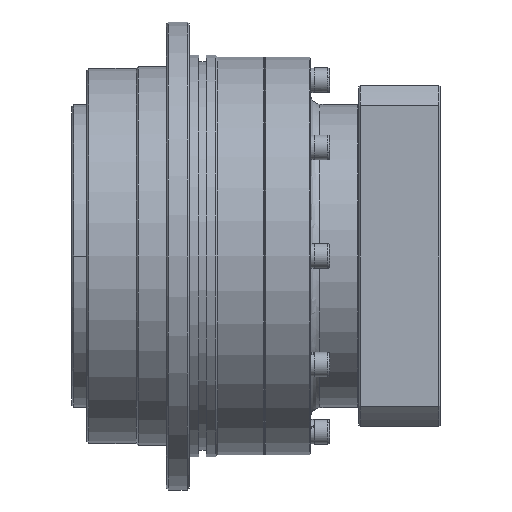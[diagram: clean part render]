
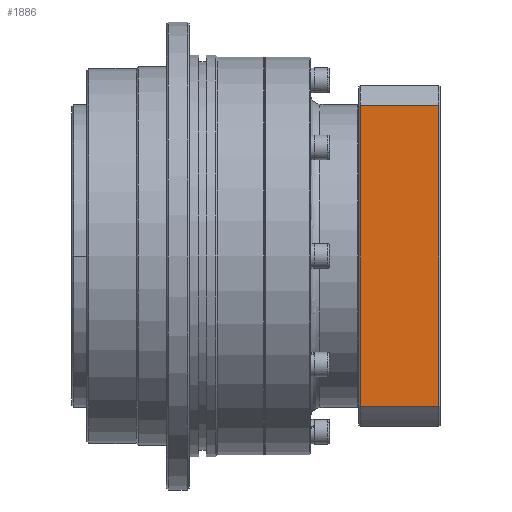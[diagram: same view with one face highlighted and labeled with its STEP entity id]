
A CAD part, front view. The second image highlights one B-rep face of the part: STEP entity #1886.
In plain terms, the highlighted planar face has unit normal (0, -1, 0).
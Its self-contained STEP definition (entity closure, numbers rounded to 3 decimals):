
#173 = FACE_OUTER_BOUND ( 'NONE', #5894, .T. ) ;
#1076 = VERTEX_POINT ( 'NONE', #15308 ) ;
#1662 = EDGE_CURVE ( 'NONE', #7879, #8043, #6459, .T. ) ;
#1886 = ADVANCED_FACE ( 'NONE', ( #173 ), #7020, .F. ) ;
#3167 = VECTOR ( 'NONE', #9845, 1000. ) ;
#4753 = VECTOR ( 'NONE', #12843, 1000. ) ;
#4812 = VERTEX_POINT ( 'NONE', #32263 ) ;
#4872 = ORIENTED_EDGE ( 'NONE', *, *, #32021, .T. ) ;
#5844 = CARTESIAN_POINT ( 'NONE',  ( 90.186, -112.294, 79.373 ) ) ;
#5894 = EDGE_LOOP ( 'NONE', ( #32314, #34624, #4872, #14950 ) ) ;
#6459 = LINE ( 'NONE', #20607, #4753 ) ;
#6790 = DIRECTION ( 'NONE',  ( 0., 0., 1. ) ) ;
#6961 = LINE ( 'NONE', #23038, #3167 ) ;
#7020 = PLANE ( 'NONE',  #26735 ) ;
#7879 = VERTEX_POINT ( 'NONE', #5844 ) ;
#8043 = VERTEX_POINT ( 'NONE', #28174 ) ;
#9845 = DIRECTION ( 'NONE',  ( -1., 0., 0. ) ) ;
#10216 = EDGE_CURVE ( 'NONE', #1076, #4812, #6961, .T. ) ;
#11790 = CARTESIAN_POINT ( 'NONE',  ( 90.186, -112.294, 90. ) ) ;
#11909 = DIRECTION ( 'NONE',  ( 0., 0., 1. ) ) ;
#12843 = DIRECTION ( 'NONE',  ( 1., 0., 0. ) ) ;
#13034 = LINE ( 'NONE', #11790, #22655 ) ;
#14950 = ORIENTED_EDGE ( 'NONE', *, *, #1662, .F. ) ;
#15231 = EDGE_CURVE ( 'NONE', #4812, #7879, #13034, .T. ) ;
#15308 = CARTESIAN_POINT ( 'NONE',  ( 131.586, -112.294, -79.373 ) ) ;
#16549 = CARTESIAN_POINT ( 'NONE',  ( 131.586, -112.294, 90. ) ) ;
#17560 = DIRECTION ( 'NONE',  ( 0., 1., 0. ) ) ;
#17684 = CARTESIAN_POINT ( 'NONE',  ( 89.386, -112.294, 90. ) ) ;
#20346 = LINE ( 'NONE', #16549, #30314 ) ;
#20607 = CARTESIAN_POINT ( 'NONE',  ( 132.386, -112.294, 79.373 ) ) ;
#22655 = VECTOR ( 'NONE', #11909, 1000. ) ;
#23038 = CARTESIAN_POINT ( 'NONE',  ( 89.386, -112.294, -79.373 ) ) ;
#26735 = AXIS2_PLACEMENT_3D ( 'NONE', #17684, #17560, #6790 ) ;
#28174 = CARTESIAN_POINT ( 'NONE',  ( 131.586, -112.294, 79.373 ) ) ;
#30314 = VECTOR ( 'NONE', #33489, 1000. ) ;
#32021 = EDGE_CURVE ( 'NONE', #1076, #8043, #20346, .T. ) ;
#32263 = CARTESIAN_POINT ( 'NONE',  ( 90.186, -112.294, -79.373 ) ) ;
#32314 = ORIENTED_EDGE ( 'NONE', *, *, #15231, .F. ) ;
#33489 = DIRECTION ( 'NONE',  ( 0., 0., 1. ) ) ;
#34624 = ORIENTED_EDGE ( 'NONE', *, *, #10216, .F. ) ;
